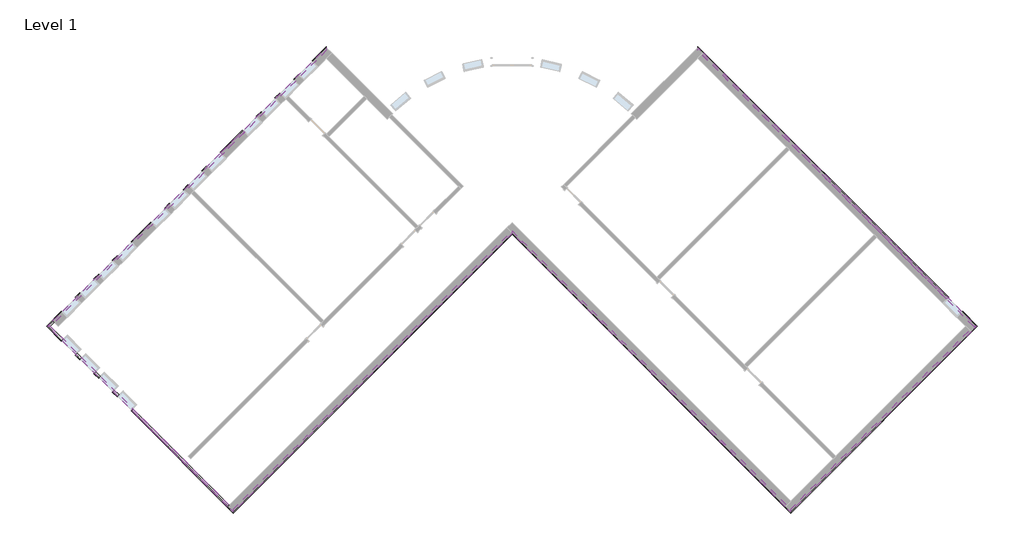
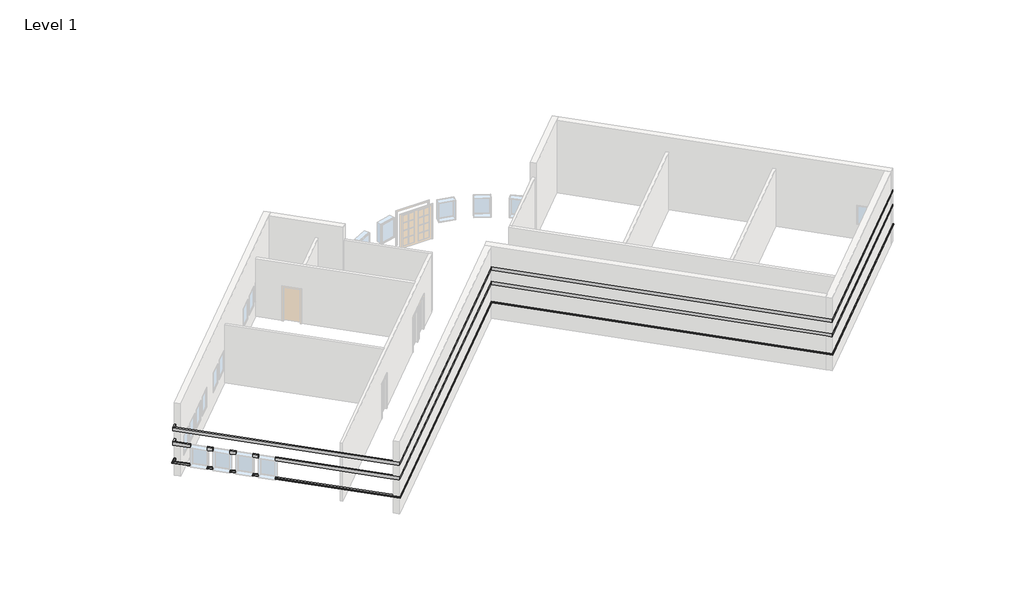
# One storey, part 3 of 3: 18 proxies.
"""IFC4 building model written with IfcOpenShell, lengths in millimetres."""

from ifc_helpers import new_model, si_unit, frame, origin, place, context, project, spatial, polyline, outline, extrude, faceted_brep, element, save

model = new_model("IFC4")

# Units and contexts
model_context = context("Model", 3, world=origin())
ifc_project = project(units=[si_unit("LENGTHUNIT", "METRE", prefix="MILLI")], contexts=[model_context])

# Site, building, storey
site = spatial("IfcSite", under=ifc_project)
building = spatial("IfcBuilding", under=site)
storey = spatial("IfcBuildingStorey", under=building, Name="Level 1", Elevation=0.0)

# Proxies
placement = place(None, origin())
element("IfcBuildingElementProxy", 1, Name="Wall Sweeps", at=placement, inside=storey, context=model_context, shape_type="Brep", body=[
    faceted_brep([(5753.0175119, 11443.3655905, 1085.85), (5753.0175119, 11573.5793042, 1085.85), (5753.0175119, 11622.9707129, 1041.4), (5753.0175119, 11622.9707129, 1016.0), (5753.0175119, 11443.3655905, 1016.0), (17309.4846077, -113.1015053, 1085.85), (17309.4846077, -113.1015053, 1016.0), (17374.5914646, -47.9946484, 1016.0), (17399.2871689, -23.2989441, 1016.0), (17399.2871689, -23.2989441, 1041.4), (17374.5914646, -47.9946484, 1085.85)], [[[0, 1, 2, 3, 4]], [[5, 6, 7, 8, 9, 10]], [[1, 0, 5, 10]], [[2, 1, 10, 9]], [[3, 2, 9, 8]], [[4, 3, 8, 7, 6]], [[0, 4, 6, 5]]]),
    faceted_brep([(17956.0630484, -759.679946, 1085.85), (18021.1699053, -694.5730891, 1085.85), (18045.8656096, -669.8773848, 1041.4), (18045.8656096, -669.8773848, 1016.0), (18021.1699053, -694.5730891, 1016.0), (17956.0630484, -759.679946, 1016.0), (18554.3726125, -1357.9895101, 1085.85), (18554.3726125, -1357.9895101, 1016.0), (18733.9777349, -1357.9895101, 1016.0), (18733.9777349, -1357.9895101, 1041.4), (18684.5863263, -1357.9895101, 1085.85)], [[[0, 1, 2, 3, 4, 5]], [[6, 7, 8, 9, 10]], [[1, 0, 6, 10]], [[2, 1, 10, 9]], [[3, 2, 9, 8]], [[5, 4, 3, 8, 7]], [[0, 5, 7, 6]]]),
])
element("IfcBuildingElementProxy", 2, Name="Wall Sweeps", at=placement, inside=storey, context=model_context, shape_type="Brep", body=[
    faceted_brep([(5753.0175119, 11573.5793042, 2336.8), (5753.0175119, 11573.5793042, 2133.6), (5753.0175119, 11443.3655905, 2133.6), (5753.0175119, 11443.3655905, 2336.8), (17374.5914646, -47.9946484, 2336.8), (17309.4846077, -113.1015053, 2336.8), (17309.4846077, -113.1015053, 2133.6), (17374.5914646, -47.9946484, 2133.6), (6002.2196193, 11324.3771969, 2336.8), (6002.2196193, 11324.3771969, 2133.6)], [[[0, 1, 2, 3]], [[4, 5, 6, 7]], [[1, 0, 8, 4, 7, 9]], [[2, 1, 9, 7, 6]], [[3, 2, 6, 5]], [[0, 3, 5, 4, 8]]]),
    faceted_brep([(18021.1699053, -694.5730891, 2336.8), (18021.1699053, -694.5730891, 2133.6), (17956.0630484, -759.679946, 2133.6), (17956.0630484, -759.679946, 2336.8), (18684.5863263, -1357.9895101, 2336.8), (18554.3726125, -1357.9895101, 2336.8), (18554.3726125, -1357.9895101, 2133.6), (18684.5863263, -1357.9895101, 2133.6)], [[[0, 1, 2, 3]], [[4, 5, 6, 7]], [[1, 0, 4, 7]], [[2, 1, 7, 6]], [[3, 2, 6, 5]], [[0, 3, 5, 4]]]),
])
element("IfcBuildingElementProxy", 3, Name="Wall Sweeps", at=placement, inside=storey, context=model_context, shape_type="Brep", body=[
    faceted_brep([(5753.0175119, 11573.5793042, 3251.2), (5753.0175119, 11573.5793042, 3048.0), (5753.0175119, 11443.3655905, 3048.0), (5753.0175119, 11443.3655905, 3251.2), (18684.5863263, -1357.9895101, 3251.2), (18554.3726125, -1357.9895101, 3251.2), (18554.3726125, -1357.9895101, 3048.0), (18684.5863263, -1357.9895101, 3048.0), (6002.2196193, 11324.3771969, 3251.2), (6002.2196193, 11324.3771969, 3048.0)], [[[0, 1, 2, 3]], [[4, 5, 6, 7]], [[1, 0, 8, 4, 7, 9]], [[2, 1, 9, 7, 6]], [[3, 2, 6, 5]], [[0, 3, 5, 4, 8]]]),
])
element("IfcBuildingElementProxy", 4, Name="Wall Sweeps", at=placement, inside=storey, context=model_context, shape_type="Brep", body=[
    faceted_brep([(18554.3726125, -1357.9895101, 1085.85), (18684.5863263, -1357.9895101, 1085.85), (18733.9777349, -1357.9895101, 1041.4), (18733.9777349, -1357.9895101, 1016.0), (18554.3726125, -1357.9895101, 1016.0), (10063.54045, -9848.8216726, 1085.85), (10063.54045, -9848.8216726, 1016.0), (10063.54045, -10028.426795, 1016.0), (10063.54045, -10028.426795, 1041.4), (10063.54045, -9979.0353863, 1085.85)], [[[0, 1, 2, 3, 4]], [[5, 6, 7, 8, 9]], [[1, 0, 5, 9]], [[2, 1, 9, 8]], [[3, 2, 8, 7]], [[4, 3, 7, 6]], [[0, 4, 6, 5]]]),
])
element("IfcBuildingElementProxy", 5, Name="Wall Sweeps", at=placement, inside=storey, context=model_context, shape_type="Brep", body=[
    faceted_brep([(18684.5863263, -1357.9895101, 2336.8), (18684.5863263, -1357.9895101, 2133.6), (18554.3726125, -1357.9895101, 2133.6), (18554.3726125, -1357.9895101, 2336.8), (10063.54045, -9979.0353863, 2336.8), (10063.54045, -9848.8216726, 2336.8), (10063.54045, -9848.8216726, 2133.6), (10063.54045, -9979.0353863, 2133.6), (18435.3842189, -1607.1916175, 2336.8), (18435.3842189, -1607.1916175, 2133.6)], [[[0, 1, 2, 3]], [[4, 5, 6, 7]], [[1, 0, 8, 4, 7, 9]], [[2, 1, 9, 7, 6]], [[3, 2, 6, 5]], [[0, 3, 5, 4, 8]]]),
])
element("IfcBuildingElementProxy", 6, Name="Wall Sweeps", at=placement, inside=storey, context=model_context, shape_type="Brep", body=[
    faceted_brep([(18684.5863263, -1357.9895101, 3251.2), (18684.5863263, -1357.9895101, 3048.0), (18554.3726125, -1357.9895101, 3048.0), (18554.3726125, -1357.9895101, 3251.2), (10063.54045, -9979.0353863, 3251.2), (10063.54045, -9848.8216726, 3251.2), (10063.54045, -9848.8216726, 3048.0), (10063.54045, -9979.0353863, 3048.0), (18435.3842189, -1607.1916175, 3251.2), (18435.3842189, -1607.1916175, 3048.0)], [[[0, 1, 2, 3]], [[4, 5, 6, 7]], [[1, 0, 8, 4, 7, 9]], [[2, 1, 9, 7, 6]], [[3, 2, 6, 5]], [[0, 3, 5, 4, 8]]]),
])
element("IfcBuildingElementProxy", 7, Name="Wall Sweeps", at=placement, inside=storey, context=model_context, shape_type="Brep", body=[
    faceted_brep([(10063.54045, -9848.8216726, 1085.85), (10063.54045, -9979.0353863, 1085.85), (10063.54045, -10028.426795, 1041.4), (10063.54045, -10028.426795, 1016.0), (10063.54045, -9848.8216726, 1016.0), (-2868.0283643, 3082.7471418, 1085.85), (-2868.0283643, 3082.7471418, 1016.0), (-2868.0283643, 2903.1420194, 1016.0), (-2868.0283643, 2903.1420194, 1041.4), (-2868.0283643, 2952.533428, 1085.85)], [[[0, 1, 2, 3, 4]], [[5, 6, 7, 8, 9]], [[1, 0, 5, 9]], [[2, 1, 9, 8]], [[3, 2, 8, 7]], [[4, 3, 7, 6]], [[0, 4, 6, 5]]]),
])
element("IfcBuildingElementProxy", 8, Name="Wall Sweeps", at=placement, inside=storey, context=model_context, shape_type="Brep", body=[
    faceted_brep([(10063.54045, -9979.0353863, 2336.8), (10063.54045, -9979.0353863, 2133.6), (10063.54045, -9848.8216726, 2133.6), (10063.54045, -9848.8216726, 2336.8), (-2868.0283643, 2952.533428, 2336.8), (-2868.0283643, 3082.7471418, 2336.8), (-2868.0283643, 3082.7471418, 2133.6), (-2868.0283643, 2952.533428, 2133.6), (9814.3383427, -9729.833279, 2336.8), (9814.3383427, -9729.833279, 2133.6)], [[[0, 1, 2, 3]], [[4, 5, 6, 7]], [[1, 0, 8, 4, 7, 9]], [[2, 1, 9, 7, 6]], [[3, 2, 6, 5]], [[0, 3, 5, 4, 8]]]),
])
element("IfcBuildingElementProxy", 9, Name="Wall Sweeps", at=placement, inside=storey, context=model_context, shape_type="Brep", body=[
    faceted_brep([(10063.54045, -9979.0353863, 3251.2), (10063.54045, -9979.0353863, 3048.0), (10063.54045, -9848.8216726, 3048.0), (10063.54045, -9848.8216726, 3251.2), (-2868.0283643, 2952.533428, 3251.2), (-2868.0283643, 3082.7471418, 3251.2), (-2868.0283643, 3082.7471418, 3048.0), (-2868.0283643, 2952.533428, 3048.0), (9814.3383427, -9729.833279, 3251.2), (9814.3383427, -9729.833279, 3048.0)], [[[0, 1, 2, 3]], [[4, 5, 6, 7]], [[1, 0, 8, 4, 7, 9]], [[2, 1, 9, 7, 6]], [[3, 2, 6, 5]], [[0, 3, 5, 4, 8]]]),
])
element("IfcBuildingElementProxy", 10, Name="Wall Sweeps", at=placement, inside=storey, context=model_context, shape_type="Brep", body=[
    faceted_brep([(-2868.0283643, 3082.7471418, 1085.85), (-2868.0283643, 2952.533428, 1085.85), (-2868.0283643, 2903.1420194, 1041.4), (-2868.0283643, 2903.1420194, 1016.0), (-2868.0283643, 3082.7471418, 1016.0), (-15799.5971786, -9848.8216726, 1085.85), (-15799.5971786, -9848.8216726, 1016.0), (-15799.5971786, -10028.426795, 1016.0), (-15799.5971786, -10028.426795, 1041.4), (-15799.5971786, -9979.0353863, 1085.85)], [[[0, 1, 2, 3, 4]], [[5, 6, 7, 8, 9]], [[1, 0, 5, 9]], [[2, 1, 9, 8]], [[3, 2, 8, 7]], [[4, 3, 7, 6]], [[0, 4, 6, 5]]]),
])
element("IfcBuildingElementProxy", 11, Name="Wall Sweeps", at=placement, inside=storey, context=model_context, shape_type="SweptSolid", body=[
    extrude(outline(polyline([(-2868.0283643, 3082.7471418), (-2868.0283643, 2952.533428), (-15799.5971786, -9979.0353863), (-15799.5971786, -9848.8216726), (-2868.0283643, 3082.7471418)])), frame((0.0, 0.0, 2133.6), z_axis=(0.0, 0.0, 1.0), x_axis=(1.0, 0.0, 0.0)), (0.0, 0.0, 1.0), 203.2),
])
element("IfcBuildingElementProxy", 12, Name="Wall Sweeps", at=placement, inside=storey, context=model_context, shape_type="SweptSolid", body=[
    extrude(outline(polyline([(-2868.0283643, 3082.7471418), (-2868.0283643, 2952.533428), (-15799.5971786, -9979.0353863), (-15799.5971786, -9848.8216726), (-2868.0283643, 3082.7471418)])), frame((0.0, 0.0, 3048.0), z_axis=(0.0, 0.0, 1.0), x_axis=(1.0, 0.0, 0.0)), (0.0, 0.0, 1.0), 203.2),
])
element("IfcBuildingElementProxy", 13, Name="Wall Sweeps", at=placement, inside=storey, context=model_context, shape_type="Brep", body=[
    faceted_brep([(-15799.5971786, -9848.8216726, 1085.85), (-15799.5971786, -9979.0353863, 1085.85), (-15799.5971786, -10028.426795, 1041.4), (-15799.5971786, -10028.426795, 1016.0), (-15799.5971786, -9848.8216726, 1016.0), (-20459.2275735, -5189.1912777, 1085.85), (-20459.2275735, -5189.1912777, 1016.0), (-20524.3344303, -5254.2981346, 1016.0), (-20549.0301347, -5278.993839, 1016.0), (-20549.0301347, -5278.993839, 1041.4), (-20524.3344303, -5254.2981346, 1085.85)], [[[0, 1, 2, 3, 4]], [[5, 6, 7, 8, 9, 10]], [[1, 0, 5, 10]], [[2, 1, 10, 9]], [[3, 2, 9, 8]], [[4, 3, 8, 7, 6]], [[0, 4, 6, 5]]]),
    faceted_brep([(-21105.8060142, -4542.612837, 1085.85), (-21170.9128711, -4607.7196939, 1085.85), (-21195.6085754, -4632.4153982, 1041.4), (-21195.6085754, -4632.4153982, 1016.0), (-21170.9128711, -4607.7196939, 1016.0), (-21105.8060142, -4542.612837, 1016.0), (-21321.3321611, -4327.0866901, 1085.85), (-21321.3321611, -4327.0866901, 1016.0), (-21386.439018, -4392.193547, 1016.0), (-21411.1347223, -4416.8892513, 1016.0), (-21411.1347223, -4416.8892513, 1041.4), (-21386.439018, -4392.193547, 1085.85)], [[[0, 1, 2, 3, 4, 5]], [[6, 7, 8, 9, 10, 11]], [[1, 0, 6, 11]], [[2, 1, 11, 10]], [[3, 2, 10, 9]], [[5, 4, 3, 9, 8, 7]], [[0, 5, 7, 6]]]),
    faceted_brep([(-21967.9106018, -3680.5082494, 1085.85), (-22033.0174587, -3745.6151063, 1085.85), (-22057.713163, -3770.3108106, 1041.4), (-22057.713163, -3770.3108106, 1016.0), (-22033.0174587, -3745.6151063, 1016.0), (-21967.9106018, -3680.5082494, 1016.0), (-22183.4367487, -3464.9821025, 1085.85), (-22183.4367487, -3464.9821025, 1016.0), (-22248.5436056, -3530.0889594, 1016.0), (-22273.2393099, -3554.7846637, 1016.0), (-22273.2393099, -3554.7846637, 1041.4), (-22248.5436056, -3530.0889594, 1085.85)], [[[0, 1, 2, 3, 4, 5]], [[6, 7, 8, 9, 10, 11]], [[1, 0, 6, 11]], [[2, 1, 11, 10]], [[3, 2, 10, 9]], [[5, 4, 3, 9, 8, 7]], [[0, 5, 7, 6]]]),
    faceted_brep([(-22830.0151894, -2818.4036618, 1085.85), (-22895.1220463, -2883.5105187, 1085.85), (-22919.8177506, -2908.206223, 1041.4), (-22919.8177506, -2908.206223, 1016.0), (-22895.1220463, -2883.5105187, 1016.0), (-22830.0151894, -2818.4036618, 1016.0), (-23045.5413363, -2602.8775149, 1085.85), (-23045.5413363, -2602.8775149, 1016.0), (-23110.6481932, -2667.9843718, 1016.0), (-23135.3438975, -2692.6800761, 1016.0), (-23135.3438975, -2692.6800761, 1041.4), (-23110.6481932, -2667.9843718, 1085.85)], [[[0, 1, 2, 3, 4, 5]], [[6, 7, 8, 9, 10, 11]], [[1, 0, 6, 11]], [[2, 1, 11, 10]], [[3, 2, 10, 9]], [[5, 4, 3, 9, 8, 7]], [[0, 5, 7, 6]]]),
    faceted_brep([(-23692.119777, -1956.2990742, 1085.85), (-23757.2266339, -2021.405931, 1085.85), (-23781.9223383, -2046.1016354, 1041.4), (-23781.9223383, -2046.1016354, 1016.0), (-23757.2266339, -2021.405931, 1016.0), (-23692.119777, -1956.2990742, 1016.0), (-24290.4293411, -1357.9895101, 1085.85), (-24290.4293411, -1357.9895101, 1016.0), (-24470.0344635, -1357.9895101, 1016.0), (-24470.0344635, -1357.9895101, 1041.4), (-24420.6430549, -1357.9895101, 1085.85)], [[[0, 1, 2, 3, 4, 5]], [[6, 7, 8, 9, 10]], [[1, 0, 6, 10]], [[2, 1, 10, 9]], [[3, 2, 9, 8]], [[5, 4, 3, 8, 7]], [[0, 5, 7, 6]]]),
])
element("IfcBuildingElementProxy", 14, Name="Wall Sweeps", at=placement, inside=storey, context=model_context, shape_type="Brep", body=[
    faceted_brep([(-15799.5971786, -9979.0353863, 2336.8), (-15799.5971786, -9979.0353863, 2133.6), (-15799.5971786, -9848.8216726, 2133.6), (-15799.5971786, -9848.8216726, 2336.8), (-20524.3344303, -5254.2981346, 2336.8), (-20459.2275735, -5189.1912777, 2336.8), (-20459.2275735, -5189.1912777, 2133.6), (-20524.3344303, -5254.2981346, 2133.6), (-16048.799286, -9729.833279, 2336.8), (-16048.799286, -9729.833279, 2133.6)], [[[0, 1, 2, 3]], [[4, 5, 6, 7]], [[1, 0, 8, 4, 7, 9]], [[2, 1, 9, 7, 6]], [[3, 2, 6, 5]], [[0, 3, 5, 4, 8]]]),
    faceted_brep([(-21170.9128711, -4607.7196939, 2336.8), (-21170.9128711, -4607.7196939, 2133.6), (-21105.8060142, -4542.612837, 2133.6), (-21105.8060142, -4542.612837, 2336.8), (-21386.439018, -4392.193547, 2336.8), (-21321.3321611, -4327.0866901, 2336.8), (-21321.3321611, -4327.0866901, 2133.6), (-21386.439018, -4392.193547, 2133.6)], [[[0, 1, 2, 3]], [[4, 5, 6, 7]], [[1, 0, 4, 7]], [[2, 1, 7, 6]], [[3, 2, 6, 5]], [[0, 3, 5, 4]]]),
    faceted_brep([(-22033.0174587, -3745.6151063, 2336.8), (-22033.0174587, -3745.6151063, 2133.6), (-21967.9106018, -3680.5082494, 2133.6), (-21967.9106018, -3680.5082494, 2336.8), (-22248.5436056, -3530.0889594, 2336.8), (-22183.4367487, -3464.9821025, 2336.8), (-22183.4367487, -3464.9821025, 2133.6), (-22248.5436056, -3530.0889594, 2133.6)], [[[0, 1, 2, 3]], [[4, 5, 6, 7]], [[1, 0, 4, 7]], [[2, 1, 7, 6]], [[3, 2, 6, 5]], [[0, 3, 5, 4]]]),
    faceted_brep([(-22895.1220463, -2883.5105187, 2336.8), (-22895.1220463, -2883.5105187, 2133.6), (-22830.0151894, -2818.4036618, 2133.6), (-22830.0151894, -2818.4036618, 2336.8), (-23110.6481932, -2667.9843718, 2336.8), (-23045.5413363, -2602.8775149, 2336.8), (-23045.5413363, -2602.8775149, 2133.6), (-23110.6481932, -2667.9843718, 2133.6)], [[[0, 1, 2, 3]], [[4, 5, 6, 7]], [[1, 0, 4, 7]], [[2, 1, 7, 6]], [[3, 2, 6, 5]], [[0, 3, 5, 4]]]),
    faceted_brep([(-23757.2266339, -2021.405931, 2336.8), (-23757.2266339, -2021.405931, 2133.6), (-23692.119777, -1956.2990742, 2133.6), (-23692.119777, -1956.2990742, 2336.8), (-24420.6430549, -1357.9895101, 2336.8), (-24290.4293411, -1357.9895101, 2336.8), (-24290.4293411, -1357.9895101, 2133.6), (-24420.6430549, -1357.9895101, 2133.6)], [[[0, 1, 2, 3]], [[4, 5, 6, 7]], [[1, 0, 4, 7]], [[2, 1, 7, 6]], [[3, 2, 6, 5]], [[0, 3, 5, 4]]]),
])
element("IfcBuildingElementProxy", 15, Name="Wall Sweeps", at=placement, inside=storey, context=model_context, shape_type="Brep", body=[
    faceted_brep([(-15799.5971786, -9979.0353863, 3251.2), (-15799.5971786, -9979.0353863, 3048.0), (-15799.5971786, -9848.8216726, 3048.0), (-15799.5971786, -9848.8216726, 3251.2), (-24420.6430549, -1357.9895101, 3251.2), (-24290.4293411, -1357.9895101, 3251.2), (-24290.4293411, -1357.9895101, 3048.0), (-24420.6430549, -1357.9895101, 3048.0), (-16048.799286, -9729.833279, 3251.2), (-16048.799286, -9729.833279, 3048.0)], [[[0, 1, 2, 3]], [[4, 5, 6, 7]], [[1, 0, 8, 4, 7, 9]], [[2, 1, 9, 7, 6]], [[3, 2, 6, 5]], [[0, 3, 5, 4, 8]]]),
])
element("IfcBuildingElementProxy", 16, Name="Wall Sweeps", at=placement, inside=storey, context=model_context, shape_type="Brep", body=[
    faceted_brep([(-24290.4293411, -1357.9895101, 1085.85), (-24420.6430549, -1357.9895101, 1085.85), (-24470.0344635, -1357.9895101, 1041.4), (-24470.0344635, -1357.9895101, 1016.0), (-24290.4293411, -1357.9895101, 1016.0), (-23692.119777, -759.679946, 1085.85), (-23692.119777, -759.679946, 1016.0), (-23757.2266339, -694.5730891, 1016.0), (-23781.9223383, -669.8773848, 1016.0), (-23781.9223383, -669.8773848, 1041.4), (-23757.2266339, -694.5730891, 1085.85)], [[[0, 1, 2, 3, 4]], [[5, 6, 7, 8, 9, 10]], [[1, 0, 5, 10]], [[2, 1, 10, 9]], [[3, 2, 9, 8]], [[4, 3, 8, 7, 6]], [[0, 4, 6, 5]]]),
    faceted_brep([(-23045.5413363, -113.1015053, 1085.85), (-23110.6481932, -47.9946484, 1085.85), (-23135.3438975, -23.2989441, 1041.4), (-23135.3438975, -23.2989441, 1016.0), (-23110.6481932, -47.9946484, 1016.0), (-23045.5413363, -113.1015053, 1016.0), (-22830.0151894, 102.4246416, 1085.85), (-22830.0151894, 102.4246416, 1016.0), (-22895.1220463, 167.5314985, 1016.0), (-22919.8177506, 192.2272028, 1016.0), (-22919.8177506, 192.2272028, 1041.4), (-22895.1220463, 167.5314985, 1085.85)], [[[0, 1, 2, 3, 4, 5]], [[6, 7, 8, 9, 10, 11]], [[1, 0, 6, 11]], [[2, 1, 11, 10]], [[3, 2, 10, 9]], [[5, 4, 3, 9, 8, 7]], [[0, 5, 7, 6]]]),
    faceted_brep([(-22183.4367487, 749.0030823, 1085.85), (-22248.5436056, 814.1099392, 1085.85), (-22273.2393099, 838.8056435, 1041.4), (-22273.2393099, 838.8056435, 1016.0), (-22248.5436056, 814.1099392, 1016.0), (-22183.4367487, 749.0030823, 1016.0), (-21967.9106018, 964.5292292, 1085.85), (-21967.9106018, 964.5292292, 1016.0), (-22033.0174587, 1029.6360861, 1016.0), (-22057.713163, 1054.3317904, 1016.0), (-22057.713163, 1054.3317904, 1041.4), (-22033.0174587, 1029.6360861, 1085.85)], [[[0, 1, 2, 3, 4, 5]], [[6, 7, 8, 9, 10, 11]], [[1, 0, 6, 11]], [[2, 1, 11, 10]], [[3, 2, 10, 9]], [[5, 4, 3, 9, 8, 7]], [[0, 5, 7, 6]]]),
    faceted_brep([(-21321.3321611, 1611.1076699, 1085.85), (-21386.439018, 1676.2145268, 1085.85), (-21411.1347223, 1700.9102311, 1041.4), (-21411.1347223, 1700.9102311, 1016.0), (-21386.439018, 1676.2145268, 1016.0), (-21321.3321611, 1611.1076699, 1016.0), (-21105.8060142, 1826.6338168, 1085.85), (-21105.8060142, 1826.6338168, 1016.0), (-21170.9128711, 1891.7406737, 1016.0), (-21195.6085754, 1916.4363781, 1016.0), (-21195.6085754, 1916.4363781, 1041.4), (-21170.9128711, 1891.7406737, 1085.85)], [[[0, 1, 2, 3, 4, 5]], [[6, 7, 8, 9, 10, 11]], [[1, 0, 6, 11]], [[2, 1, 11, 10]], [[3, 2, 10, 9]], [[5, 4, 3, 9, 8, 7]], [[0, 5, 7, 6]]]),
    faceted_brep([(-20459.2275735, 2473.2122576, 1085.85), (-20524.3344303, 2538.3191144, 1085.85), (-20549.0301347, 2563.0148188, 1041.4), (-20549.0301347, 2563.0148188, 1016.0), (-20524.3344303, 2538.3191144, 1016.0), (-20459.2275735, 2473.2122576, 1016.0), (-19543.7128733, 3388.7269578, 1085.85), (-19543.7128733, 3388.7269578, 1016.0), (-19608.8197301, 3453.8338146, 1016.0), (-19633.5154345, 3478.529519, 1016.0), (-19633.5154345, 3478.529519, 1041.4), (-19608.8197301, 3453.8338146, 1085.85)], [[[0, 1, 2, 3, 4, 5]], [[6, 7, 8, 9, 10, 11]], [[1, 0, 6, 11]], [[2, 1, 11, 10]], [[3, 2, 10, 9]], [[5, 4, 3, 9, 8, 7]], [[0, 5, 7, 6]]]),
    faceted_brep([(-18897.1344326, 4035.3053985, 1085.85), (-18962.2412894, 4100.4122553, 1085.85), (-18986.9369938, 4125.1079597, 1041.4), (-18986.9369938, 4125.1079597, 1016.0), (-18962.2412894, 4100.4122553, 1016.0), (-18897.1344326, 4035.3053985, 1016.0), (-18681.6082856, 4250.8315454, 1085.85), (-18681.6082856, 4250.8315454, 1016.0), (-18746.7151425, 4315.9384023, 1016.0), (-18771.4108469, 4340.6341066, 1016.0), (-18771.4108469, 4340.6341066, 1041.4), (-18746.7151425, 4315.9384023, 1085.85)], [[[0, 1, 2, 3, 4, 5]], [[6, 7, 8, 9, 10, 11]], [[1, 0, 6, 11]], [[2, 1, 11, 10]], [[3, 2, 10, 9]], [[5, 4, 3, 9, 8, 7]], [[0, 5, 7, 6]]]),
    faceted_brep([(-18035.0298449, 4897.4099861, 1085.85), (-18100.1367018, 4962.516843, 1085.85), (-18124.8324061, 4987.2125473, 1041.4), (-18124.8324061, 4987.2125473, 1016.0), (-18100.1367018, 4962.516843, 1016.0), (-18035.0298449, 4897.4099861, 1016.0), (-17819.503698, 5112.936133, 1085.85), (-17819.503698, 5112.936133, 1016.0), (-17884.6105549, 5178.0429899, 1016.0), (-17909.3062592, 5202.7386942, 1016.0), (-17909.3062592, 5202.7386942, 1041.4), (-17884.6105549, 5178.0429899, 1085.85)], [[[0, 1, 2, 3, 4, 5]], [[6, 7, 8, 9, 10, 11]], [[1, 0, 6, 11]], [[2, 1, 11, 10]], [[3, 2, 10, 9]], [[5, 4, 3, 9, 8, 7]], [[0, 5, 7, 6]]]),
    faceted_brep([(-17172.9252573, 5759.5145737, 1085.85), (-17238.0321142, 5824.6214306, 1085.85), (-17262.7278185, 5849.3171349, 1041.4), (-17262.7278185, 5849.3171349, 1016.0), (-17238.0321142, 5824.6214306, 1016.0), (-17172.9252573, 5759.5145737, 1016.0), (-16957.3991104, 5975.0407206, 1085.85), (-16957.3991104, 5975.0407206, 1016.0), (-17022.5059673, 6040.1475775, 1016.0), (-17047.2016716, 6064.8432818, 1016.0), (-17047.2016716, 6064.8432818, 1041.4), (-17022.5059673, 6040.1475775, 1085.85)], [[[0, 1, 2, 3, 4, 5]], [[6, 7, 8, 9, 10, 11]], [[1, 0, 6, 11]], [[2, 1, 11, 10]], [[3, 2, 10, 9]], [[5, 4, 3, 9, 8, 7]], [[0, 5, 7, 6]]]),
    faceted_brep([(-16310.8206697, 6621.6191613, 1085.85), (-16375.9275266, 6686.7260182, 1085.85), (-16400.6232309, 6711.4217225, 1041.4), (-16400.6232309, 6711.4217225, 1016.0), (-16375.9275266, 6686.7260182, 1016.0), (-16310.8206697, 6621.6191613, 1016.0), (-15286.3644832, 7646.0753478, 1085.85), (-15286.3644832, 7646.0753478, 1016.0), (-15351.4713401, 7711.1822047, 1016.0), (-15376.1670444, 7735.877909, 1016.0), (-15376.1670444, 7735.877909, 1041.4), (-15351.4713401, 7711.1822047, 1085.85)], [[[0, 1, 2, 3, 4, 5]], [[6, 7, 8, 9, 10, 11]], [[1, 0, 6, 11]], [[2, 1, 11, 10]], [[3, 2, 10, 9]], [[5, 4, 3, 9, 8, 7]], [[0, 5, 7, 6]]]),
    faceted_brep([(-14639.7860425, 8292.6537886, 1085.85), (-14704.8928993, 8357.7606454, 1085.85), (-14729.5886037, 8382.4563498, 1041.4), (-14729.5886037, 8382.4563498, 1016.0), (-14704.8928993, 8357.7606454, 1016.0), (-14639.7860425, 8292.6537886, 1016.0), (-14424.2598956, 8508.1799355, 1085.85), (-14424.2598956, 8508.1799355, 1016.0), (-14489.3667524, 8573.2867923, 1016.0), (-14514.0624568, 8597.9824967, 1016.0), (-14514.0624568, 8597.9824967, 1041.4), (-14489.3667524, 8573.2867923, 1085.85)], [[[0, 1, 2, 3, 4, 5]], [[6, 7, 8, 9, 10, 11]], [[1, 0, 6, 11]], [[2, 1, 11, 10]], [[3, 2, 10, 9]], [[5, 4, 3, 9, 8, 7]], [[0, 5, 7, 6]]]),
    faceted_brep([(-13777.6814548, 9154.7583762, 1085.85), (-13842.7883117, 9219.8652331, 1085.85), (-13867.4840161, 9244.5609374, 1041.4), (-13867.4840161, 9244.5609374, 1016.0), (-13842.7883117, 9219.8652331, 1016.0), (-13777.6814548, 9154.7583762, 1016.0), (-13562.1553079, 9370.2845231, 1085.85), (-13562.1553079, 9370.2845231, 1016.0), (-13627.2621648, 9435.39138, 1016.0), (-13651.9578691, 9460.0870843, 1016.0), (-13651.9578691, 9460.0870843, 1041.4), (-13627.2621648, 9435.39138, 1085.85)], [[[0, 1, 2, 3, 4, 5]], [[6, 7, 8, 9, 10, 11]], [[1, 0, 6, 11]], [[2, 1, 11, 10]], [[3, 2, 10, 9]], [[5, 4, 3, 9, 8, 7]], [[0, 5, 7, 6]]]),
    faceted_brep([(-12915.5768672, 10016.8629638, 1085.85), (-12980.6837241, 10081.9698207, 1085.85), (-13005.3794284, 10106.665525, 1041.4), (-13005.3794284, 10106.665525, 1016.0), (-12980.6837241, 10081.9698207, 1016.0), (-12915.5768672, 10016.8629638, 1016.0), (-12700.0507203, 10232.3891107, 1085.85), (-12700.0507203, 10232.3891107, 1016.0), (-12765.1575772, 10297.4959676, 1016.0), (-12789.8532815, 10322.1916719, 1016.0), (-12789.8532815, 10322.1916719, 1041.4), (-12765.1575772, 10297.4959676, 1085.85)], [[[0, 1, 2, 3, 4, 5]], [[6, 7, 8, 9, 10, 11]], [[1, 0, 6, 11]], [[2, 1, 11, 10]], [[3, 2, 10, 9]], [[5, 4, 3, 9, 8, 7]], [[0, 5, 7, 6]]]),
    faceted_brep([(-12053.4722796, 10878.9675514, 1085.85), (-12118.5791365, 10944.0744083, 1085.85), (-12143.2748408, 10968.7701126, 1041.4), (-12143.2748408, 10968.7701126, 1016.0), (-12118.5791365, 10944.0744083, 1016.0), (-12053.4722796, 10878.9675514, 1016.0), (-11489.0742405, 11443.3655905, 1085.85), (-11489.0742405, 11443.3655905, 1016.0), (-11489.0742405, 11622.9707129, 1016.0), (-11489.0742405, 11622.9707129, 1041.4), (-11489.0742405, 11573.5793042, 1085.85)], [[[0, 1, 2, 3, 4, 5]], [[6, 7, 8, 9, 10]], [[1, 0, 6, 10]], [[2, 1, 10, 9]], [[3, 2, 9, 8]], [[5, 4, 3, 8, 7]], [[0, 5, 7, 6]]]),
])
element("IfcBuildingElementProxy", 17, Name="Wall Sweeps", at=placement, inside=storey, context=model_context, shape_type="Brep", body=[
    faceted_brep([(-24420.6430549, -1357.9895101, 2336.8), (-24420.6430549, -1357.9895101, 2133.6), (-24290.4293411, -1357.9895101, 2133.6), (-24290.4293411, -1357.9895101, 2336.8), (-23757.2266339, -694.5730891, 2336.8), (-23692.119777, -759.679946, 2336.8), (-23692.119777, -759.679946, 2133.6), (-23757.2266339, -694.5730891, 2133.6), (-24171.4409475, -1108.7874027, 2336.8), (-24171.4409475, -1108.7874027, 2133.6)], [[[0, 1, 2, 3]], [[4, 5, 6, 7]], [[1, 0, 8, 4, 7, 9]], [[2, 1, 9, 7, 6]], [[3, 2, 6, 5]], [[0, 3, 5, 4, 8]]]),
    faceted_brep([(-23110.6481932, -47.9946484, 2336.8), (-23110.6481932, -47.9946484, 2133.6), (-23045.5413363, -113.1015053, 2133.6), (-23045.5413363, -113.1015053, 2336.8), (-22895.1220463, 167.5314985, 2336.8), (-22830.0151894, 102.4246416, 2336.8), (-22830.0151894, 102.4246416, 2133.6), (-22895.1220463, 167.5314985, 2133.6)], [[[0, 1, 2, 3]], [[4, 5, 6, 7]], [[1, 0, 4, 7]], [[2, 1, 7, 6]], [[3, 2, 6, 5]], [[0, 3, 5, 4]]]),
    faceted_brep([(-22248.5436056, 814.1099392, 2336.8), (-22248.5436056, 814.1099392, 2133.6), (-22183.4367487, 749.0030823, 2133.6), (-22183.4367487, 749.0030823, 2336.8), (-22033.0174587, 1029.6360861, 2336.8), (-21967.9106018, 964.5292292, 2336.8), (-21967.9106018, 964.5292292, 2133.6), (-22033.0174587, 1029.6360861, 2133.6)], [[[0, 1, 2, 3]], [[4, 5, 6, 7]], [[1, 0, 4, 7]], [[2, 1, 7, 6]], [[3, 2, 6, 5]], [[0, 3, 5, 4]]]),
    faceted_brep([(-21386.439018, 1676.2145268, 2336.8), (-21386.439018, 1676.2145268, 2133.6), (-21321.3321611, 1611.1076699, 2133.6), (-21321.3321611, 1611.1076699, 2336.8), (-21170.9128711, 1891.7406737, 2336.8), (-21105.8060142, 1826.6338168, 2336.8), (-21105.8060142, 1826.6338168, 2133.6), (-21170.9128711, 1891.7406737, 2133.6)], [[[0, 1, 2, 3]], [[4, 5, 6, 7]], [[1, 0, 4, 7]], [[2, 1, 7, 6]], [[3, 2, 6, 5]], [[0, 3, 5, 4]]]),
    faceted_brep([(-20524.3344303, 2538.3191144, 2336.8), (-20524.3344303, 2538.3191144, 2133.6), (-20459.2275735, 2473.2122576, 2133.6), (-20459.2275735, 2473.2122576, 2336.8), (-19608.8197301, 3453.8338146, 2336.8), (-19543.7128733, 3388.7269578, 2336.8), (-19543.7128733, 3388.7269578, 2133.6), (-19608.8197301, 3453.8338146, 2133.6)], [[[0, 1, 2, 3]], [[4, 5, 6, 7]], [[1, 0, 4, 7]], [[2, 1, 7, 6]], [[3, 2, 6, 5]], [[0, 3, 5, 4]]]),
    faceted_brep([(-18962.2412894, 4100.4122553, 2336.8), (-18962.2412894, 4100.4122553, 2133.6), (-18897.1344326, 4035.3053985, 2133.6), (-18897.1344326, 4035.3053985, 2336.8), (-18746.7151425, 4315.9384023, 2336.8), (-18681.6082856, 4250.8315454, 2336.8), (-18681.6082856, 4250.8315454, 2133.6), (-18746.7151425, 4315.9384023, 2133.6)], [[[0, 1, 2, 3]], [[4, 5, 6, 7]], [[1, 0, 4, 7]], [[2, 1, 7, 6]], [[3, 2, 6, 5]], [[0, 3, 5, 4]]]),
    faceted_brep([(-18100.1367018, 4962.516843, 2336.8), (-18100.1367018, 4962.516843, 2133.6), (-18035.0298449, 4897.4099861, 2133.6), (-18035.0298449, 4897.4099861, 2336.8), (-17884.6105549, 5178.0429899, 2336.8), (-17819.503698, 5112.936133, 2336.8), (-17819.503698, 5112.936133, 2133.6), (-17884.6105549, 5178.0429899, 2133.6)], [[[0, 1, 2, 3]], [[4, 5, 6, 7]], [[1, 0, 4, 7]], [[2, 1, 7, 6]], [[3, 2, 6, 5]], [[0, 3, 5, 4]]]),
    faceted_brep([(-17238.0321142, 5824.6214306, 2336.8), (-17238.0321142, 5824.6214306, 2133.6), (-17172.9252573, 5759.5145737, 2133.6), (-17172.9252573, 5759.5145737, 2336.8), (-17022.5059673, 6040.1475775, 2336.8), (-16957.3991104, 5975.0407206, 2336.8), (-16957.3991104, 5975.0407206, 2133.6), (-17022.5059673, 6040.1475775, 2133.6)], [[[0, 1, 2, 3]], [[4, 5, 6, 7]], [[1, 0, 4, 7]], [[2, 1, 7, 6]], [[3, 2, 6, 5]], [[0, 3, 5, 4]]]),
    faceted_brep([(-16375.9275266, 6686.7260182, 2336.8), (-16375.9275266, 6686.7260182, 2133.6), (-16310.8206697, 6621.6191613, 2133.6), (-16310.8206697, 6621.6191613, 2336.8), (-15351.4713401, 7711.1822047, 2336.8), (-15286.3644832, 7646.0753478, 2336.8), (-15286.3644832, 7646.0753478, 2133.6), (-15351.4713401, 7711.1822047, 2133.6)], [[[0, 1, 2, 3]], [[4, 5, 6, 7]], [[1, 0, 4, 7]], [[2, 1, 7, 6]], [[3, 2, 6, 5]], [[0, 3, 5, 4]]]),
    faceted_brep([(-14704.8928993, 8357.7606454, 2336.8), (-14704.8928993, 8357.7606454, 2133.6), (-14639.7860425, 8292.6537886, 2133.6), (-14639.7860425, 8292.6537886, 2336.8), (-14489.3667524, 8573.2867923, 2336.8), (-14424.2598956, 8508.1799355, 2336.8), (-14424.2598956, 8508.1799355, 2133.6), (-14489.3667524, 8573.2867923, 2133.6)], [[[0, 1, 2, 3]], [[4, 5, 6, 7]], [[1, 0, 4, 7]], [[2, 1, 7, 6]], [[3, 2, 6, 5]], [[0, 3, 5, 4]]]),
    faceted_brep([(-13842.7883117, 9219.8652331, 2336.8), (-13842.7883117, 9219.8652331, 2133.6), (-13777.6814548, 9154.7583762, 2133.6), (-13777.6814548, 9154.7583762, 2336.8), (-13627.2621648, 9435.39138, 2336.8), (-13562.1553079, 9370.2845231, 2336.8), (-13562.1553079, 9370.2845231, 2133.6), (-13627.2621648, 9435.39138, 2133.6)], [[[0, 1, 2, 3]], [[4, 5, 6, 7]], [[1, 0, 4, 7]], [[2, 1, 7, 6]], [[3, 2, 6, 5]], [[0, 3, 5, 4]]]),
    faceted_brep([(-12980.6837241, 10081.9698207, 2336.8), (-12980.6837241, 10081.9698207, 2133.6), (-12915.5768672, 10016.8629638, 2133.6), (-12915.5768672, 10016.8629638, 2336.8), (-12765.1575772, 10297.4959676, 2336.8), (-12700.0507203, 10232.3891107, 2336.8), (-12700.0507203, 10232.3891107, 2133.6), (-12765.1575772, 10297.4959676, 2133.6)], [[[0, 1, 2, 3]], [[4, 5, 6, 7]], [[1, 0, 4, 7]], [[2, 1, 7, 6]], [[3, 2, 6, 5]], [[0, 3, 5, 4]]]),
    faceted_brep([(-12118.5791365, 10944.0744083, 2336.8), (-12118.5791365, 10944.0744083, 2133.6), (-12053.4722796, 10878.9675514, 2133.6), (-12053.4722796, 10878.9675514, 2336.8), (-11489.0742405, 11573.5793042, 2336.8), (-11489.0742405, 11443.3655905, 2336.8), (-11489.0742405, 11443.3655905, 2133.6), (-11489.0742405, 11573.5793042, 2133.6)], [[[0, 1, 2, 3]], [[4, 5, 6, 7]], [[1, 0, 4, 7]], [[2, 1, 7, 6]], [[3, 2, 6, 5]], [[0, 3, 5, 4]]]),
])
element("IfcBuildingElementProxy", 18, Name="Wall Sweeps", at=placement, inside=storey, context=model_context, shape_type="Brep", body=[
    faceted_brep([(-24420.6430549, -1357.9895101, 3251.2), (-24420.6430549, -1357.9895101, 3048.0), (-24290.4293411, -1357.9895101, 3048.0), (-24290.4293411, -1357.9895101, 3251.2), (-11489.0742405, 11573.5793042, 3251.2), (-11489.0742405, 11443.3655905, 3251.2), (-11489.0742405, 11443.3655905, 3048.0), (-11489.0742405, 11573.5793042, 3048.0), (-24171.4409475, -1108.7874027, 3251.2), (-24171.4409475, -1108.7874027, 3048.0)], [[[0, 1, 2, 3]], [[4, 5, 6, 7]], [[1, 0, 8, 4, 7, 9]], [[2, 1, 9, 7, 6]], [[3, 2, 6, 5]], [[0, 3, 5, 4, 8]]]),
])

save(model, "model.ifc")
